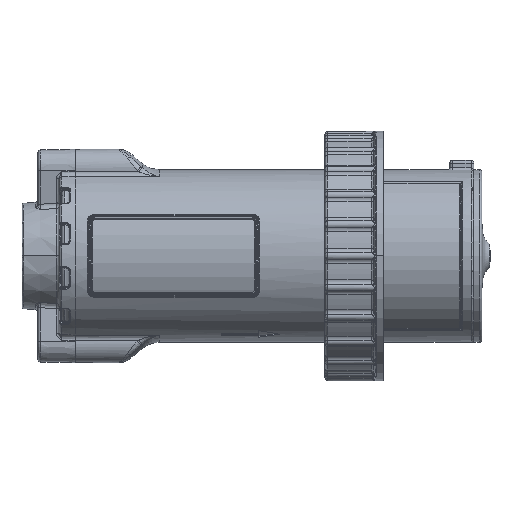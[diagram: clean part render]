
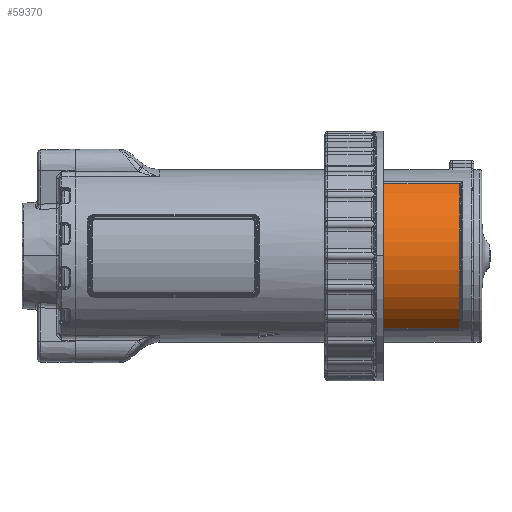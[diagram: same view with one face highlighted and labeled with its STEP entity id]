
A CAD part, top view. The second image highlights one B-rep face of the part: STEP entity #59370.
In plain terms, the highlighted cylindrical face has radius 31.9 mm (diameter 63.8 mm), a partial arc.
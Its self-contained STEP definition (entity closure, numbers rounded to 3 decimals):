
#1359 = CARTESIAN_POINT ( 'NONE',  ( 45.793, -26.938, 17.086 ) ) ;
#1879 = VECTOR ( 'NONE', #80254, 1000. ) ;
#2635 = CARTESIAN_POINT ( 'NONE',  ( 45.609, -27.081, 16.859 ) ) ;
#2636 = CARTESIAN_POINT ( 'NONE',  ( 14.207, -26.938, 17.086 ) ) ;
#3315 = LINE ( 'NONE', #98487, #1879 ) ;
#3522 = CARTESIAN_POINT ( 'NONE',  ( 14.55, 27.122, 16.793 ) ) ;
#3783 = CARTESIAN_POINT ( 'NONE',  ( 14.207, 26.995, 16.996 ) ) ;
#5027 = ORIENTED_EDGE ( 'NONE', *, *, #17473, .F. ) ;
#5663 = CARTESIAN_POINT ( 'NONE',  ( 14.295, -27.04, 16.924 ) ) ;
#8358 = CARTESIAN_POINT ( 'NONE',  ( 45.793, 26.995, 16.996 ) ) ;
#12959 = DIRECTION ( 'NONE',  ( 1., 0., 0. ) ) ;
#13340 = CARTESIAN_POINT ( 'NONE',  ( 45.793, 0., 0. ) ) ;
#13481 = CARTESIAN_POINT ( 'NONE',  ( 14.207, -26.938, 17.086 ) ) ;
#13511 = CARTESIAN_POINT ( 'NONE',  ( 14.55, 27.122, 16.793 ) ) ;
#14584 = CARTESIAN_POINT ( 'NONE',  ( 14.458, -27.103, 16.824 ) ) ;
#14897 = VERTEX_POINT ( 'NONE', #1359 ) ;
#17473 = EDGE_CURVE ( 'NONE', #52305, #25686, #113885, .T. ) ;
#19009 = DIRECTION ( 'NONE',  ( -1., 0., 0. ) ) ;
#21616 = CARTESIAN_POINT ( 'NONE',  ( 14.326, 27.112, 16.81 ) ) ;
#25530 = VERTEX_POINT ( 'NONE', #2636 ) ;
#25686 = VERTEX_POINT ( 'NONE', #51674 ) ;
#27894 = B_SPLINE_CURVE_WITH_KNOTS ( 'NONE', 3,
 ( #55222, #90359, #36688, #2635, #81048, #98895 ),
 .UNSPECIFIED., .F., .F.,
 ( 4, 2, 4 ),
 ( 0., 0.5, 1. ),
 .UNSPECIFIED. ) ;
#30593 = ORIENTED_EDGE ( 'NONE', *, *, #70716, .F. ) ;
#31222 = CARTESIAN_POINT ( 'NONE',  ( 14.273, -27.022, 16.954 ) ) ;
#31563 = VECTOR ( 'NONE', #37181, 1000. ) ;
#32657 = CARTESIAN_POINT ( 'NONE',  ( 45.45, -27.122, 16.793 ) ) ;
#36021 = FACE_OUTER_BOUND ( 'NONE', #79831, .T. ) ;
#36688 = CARTESIAN_POINT ( 'NONE',  ( 45.715, -27.023, 16.953 ) ) ;
#37181 = DIRECTION ( 'NONE',  ( -1., 0., 0. ) ) ;
#37538 = DIRECTION ( 'NONE',  ( 0., 0., 1. ) ) ;
#39933 = VERTEX_POINT ( 'NONE', #3522 ) ;
#40107 = CARTESIAN_POINT ( 'NONE',  ( 14.232, -26.98, 17.02 ) ) ;
#42651 = EDGE_CURVE ( 'NONE', #114413, #25530, #54507, .T. ) ;
#43137 = CARTESIAN_POINT ( 'NONE',  ( 45.775, 27.054, 16.903 ) ) ;
#44092 = ORIENTED_EDGE ( 'NONE', *, *, #54701, .F. ) ;
#48244 = CARTESIAN_POINT ( 'NONE',  ( 14.441, 27.122, 16.793 ) ) ;
#49851 = CARTESIAN_POINT ( 'NONE',  ( 14.207, 26.938, 17.086 ) ) ;
#50550 = EDGE_CURVE ( 'NONE', #25530, #105978, #50763, .T. ) ;
#50763 = CIRCLE ( 'NONE', #107455, 31.9 ) ;
#51195 = CARTESIAN_POINT ( 'NONE',  ( 14.55, -27.122, 16.793 ) ) ;
#51674 = CARTESIAN_POINT ( 'NONE',  ( 45.793, 26.938, 17.086 ) ) ;
#52305 = VERTEX_POINT ( 'NONE', #92361 ) ;
#52370 = AXIS2_PLACEMENT_3D ( 'NONE', #88939, #54552, #90084 ) ;
#53599 = ORIENTED_EDGE ( 'NONE', *, *, #65728, .F. ) ;
#54040 = CIRCLE ( 'NONE', #96221, 31.9 ) ;
#54507 = B_SPLINE_CURVE_WITH_KNOTS ( 'NONE', 3,
 ( #102264, #14584, #67049, #5663, #31222, #40107, #76312, #13481 ),
 .UNSPECIFIED., .F., .F.,
 ( 4, 2, 2, 4 ),
 ( 0., 0.5, 0.75, 1. ),
 .UNSPECIFIED. ) ;
#54529 = CARTESIAN_POINT ( 'NONE',  ( 14.207, 0., 0. ) ) ;
#54552 = DIRECTION ( 'NONE',  ( 1., 0., 0. ) ) ;
#54701 = EDGE_CURVE ( 'NONE', #25686, #14897, #54040, .T. ) ;
#55222 = CARTESIAN_POINT ( 'NONE',  ( 45.793, -26.938, 17.086 ) ) ;
#55880 = EDGE_CURVE ( 'NONE', #105978, #39933, #98277, .T. ) ;
#59370 = ADVANCED_FACE ( 'NONE', ( #36021 ), #80181, .T. ) ;
#60915 = CARTESIAN_POINT ( 'NONE',  ( 45.45, 27.122, 16.793 ) ) ;
#65564 = CARTESIAN_POINT ( 'NONE',  ( 14.225, 27.054, 16.903 ) ) ;
#65728 = EDGE_CURVE ( 'NONE', #96375, #114413, #67383, .T. ) ;
#67049 = CARTESIAN_POINT ( 'NONE',  ( 14.38, -27.087, 16.85 ) ) ;
#67383 = LINE ( 'NONE', #89704, #31563 ) ;
#69728 = CARTESIAN_POINT ( 'NONE',  ( 45.674, 27.112, 16.81 ) ) ;
#70716 = EDGE_CURVE ( 'NONE', #39933, #52305, #3315, .T. ) ;
#73905 = DIRECTION ( 'NONE',  ( 0., 0., 1. ) ) ;
#76312 = CARTESIAN_POINT ( 'NONE',  ( 14.218, -26.96, 17.051 ) ) ;
#78220 = CARTESIAN_POINT ( 'NONE',  ( 45.793, 26.938, 17.086 ) ) ;
#79831 = EDGE_LOOP ( 'NONE', ( #53599, #87772, #44092, #5027, #30593, #83655, #109389, #108413 ) ) ;
#80181 = CYLINDRICAL_SURFACE ( 'NONE', #52370, 31.9 ) ;
#80254 = DIRECTION ( 'NONE',  ( 1., 0., 0. ) ) ;
#81048 = CARTESIAN_POINT ( 'NONE',  ( 45.538, -27.097, 16.833 ) ) ;
#83655 = ORIENTED_EDGE ( 'NONE', *, *, #55880, .F. ) ;
#84159 = CARTESIAN_POINT ( 'NONE',  ( 14.207, 26.938, 17.086 ) ) ;
#87772 = ORIENTED_EDGE ( 'NONE', *, *, #100407, .F. ) ;
#88939 = CARTESIAN_POINT ( 'NONE',  ( 26.5, 0., 0. ) ) ;
#89704 = CARTESIAN_POINT ( 'NONE',  ( 30., -27.122, 16.793 ) ) ;
#90084 = DIRECTION ( 'NONE',  ( 0., 0., 1. ) ) ;
#90359 = CARTESIAN_POINT ( 'NONE',  ( 45.743, -26.985, 17.013 ) ) ;
#92361 = CARTESIAN_POINT ( 'NONE',  ( 45.45, 27.122, 16.793 ) ) ;
#96221 = AXIS2_PLACEMENT_3D ( 'NONE', #13340, #12959, #73905 ) ;
#96375 = VERTEX_POINT ( 'NONE', #32657 ) ;
#98277 = B_SPLINE_CURVE_WITH_KNOTS ( 'NONE', 5,
 ( #84159, #3783, #65564, #21616, #48244, #13511 ),
 .UNSPECIFIED., .F., .F.,
 ( 6, 6 ),
 ( -1.543, -0.303 ),
 .UNSPECIFIED. ) ;
#98487 = CARTESIAN_POINT ( 'NONE',  ( 26.5, 27.122, 16.793 ) ) ;
#98895 = CARTESIAN_POINT ( 'NONE',  ( 45.45, -27.122, 16.793 ) ) ;
#100407 = EDGE_CURVE ( 'NONE', #14897, #96375, #27894, .T. ) ;
#102264 = CARTESIAN_POINT ( 'NONE',  ( 14.55, -27.122, 16.793 ) ) ;
#105978 = VERTEX_POINT ( 'NONE', #49851 ) ;
#107455 = AXIS2_PLACEMENT_3D ( 'NONE', #54529, #19009, #37538 ) ;
#108413 = ORIENTED_EDGE ( 'NONE', *, *, #42651, .F. ) ;
#109389 = ORIENTED_EDGE ( 'NONE', *, *, #50550, .F. ) ;
#112672 = CARTESIAN_POINT ( 'NONE',  ( 45.559, 27.122, 16.793 ) ) ;
#113885 = B_SPLINE_CURVE_WITH_KNOTS ( 'NONE', 5,
 ( #60915, #112672, #69728, #43137, #8358, #78220 ),
 .UNSPECIFIED., .F., .F.,
 ( 6, 6 ),
 ( -1.556, -0.316 ),
 .UNSPECIFIED. ) ;
#114413 = VERTEX_POINT ( 'NONE', #51195 ) ;
